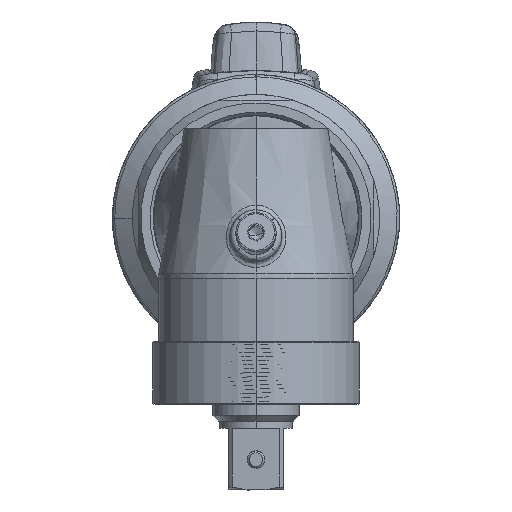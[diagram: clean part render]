
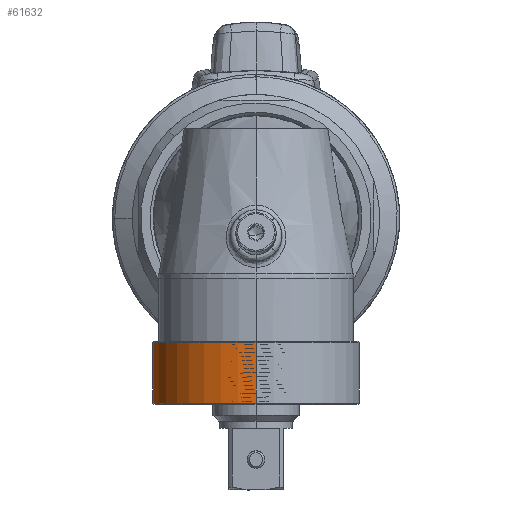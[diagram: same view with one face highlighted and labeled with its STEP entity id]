
A CAD part, left-side view. The second image highlights one B-rep face of the part: STEP entity #61632.
In plain terms, the highlighted cylindrical face has radius 18 mm (diameter 36 mm), a partial arc.
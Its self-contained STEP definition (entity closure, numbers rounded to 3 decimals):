
#6704 = DIRECTION ( 'NONE',  ( 0., 0., -1. ) ) ;
#10603 = VERTEX_POINT ( 'NONE', #93140 ) ;
#16782 = CARTESIAN_POINT ( 'NONE',  ( -112.267, 0., -21.4 ) ) ;
#19701 = ORIENTED_EDGE ( 'NONE', *, *, #78819, .F. ) ;
#21716 = LINE ( 'NONE', #64714, #55303 ) ;
#30053 = AXIS2_PLACEMENT_3D ( 'NONE', #126126, #55959, #136808 ) ;
#32821 = ORIENTED_EDGE ( 'NONE', *, *, #69995, .T. ) ;
#46729 = FACE_OUTER_BOUND ( 'NONE', #63604, .T. ) ;
#47205 = CIRCLE ( 'NONE', #30053, 18. ) ;
#48387 = EDGE_CURVE ( 'NONE', #104668, #10603, #107279, .T. ) ;
#48569 = AXIS2_PLACEMENT_3D ( 'NONE', #16782, #143452, #121343 ) ;
#51653 = CARTESIAN_POINT ( 'NONE',  ( -94.267, 0., -21.6 ) ) ;
#55303 = VECTOR ( 'NONE', #6704, 1000. ) ;
#55959 = DIRECTION ( 'NONE',  ( 0., 0., -1. ) ) ;
#56230 = ORIENTED_EDGE ( 'NONE', *, *, #48387, .T. ) ;
#61632 = ADVANCED_FACE ( 'NONE', ( #46729 ), #85511, .T. ) ;
#63604 = EDGE_LOOP ( 'NONE', ( #32821, #105950, #56230, #19701 ) ) ;
#63635 = EDGE_CURVE ( 'NONE', #117185, #104668, #82947, .T. ) ;
#64714 = CARTESIAN_POINT ( 'NONE',  ( -130.267, 0., -21.4 ) ) ;
#65888 = AXIS2_PLACEMENT_3D ( 'NONE', #98262, #68479, #79169 ) ;
#68479 = DIRECTION ( 'NONE',  ( 0., 0., 1. ) ) ;
#69995 = EDGE_CURVE ( 'NONE', #114799, #117185, #47205, .T. ) ;
#70665 = VECTOR ( 'NONE', #118755, 1000. ) ;
#72232 = CARTESIAN_POINT ( 'NONE',  ( -94.267, 0., -21.4 ) ) ;
#75878 = CARTESIAN_POINT ( 'NONE',  ( -130.267, 0., -21.6 ) ) ;
#78819 = EDGE_CURVE ( 'NONE', #114799, #10603, #21716, .T. ) ;
#79169 = DIRECTION ( 'NONE',  ( 1., 0., 0. ) ) ;
#82947 = LINE ( 'NONE', #72232, #70665 ) ;
#85511 = CYLINDRICAL_SURFACE ( 'NONE', #48569, 18. ) ;
#93140 = CARTESIAN_POINT ( 'NONE',  ( -130.267, 0., -32.2 ) ) ;
#98262 = CARTESIAN_POINT ( 'NONE',  ( -112.267, 0., -32.2 ) ) ;
#104668 = VERTEX_POINT ( 'NONE', #145394 ) ;
#105950 = ORIENTED_EDGE ( 'NONE', *, *, #63635, .T. ) ;
#107279 = CIRCLE ( 'NONE', #65888, 18. ) ;
#114799 = VERTEX_POINT ( 'NONE', #75878 ) ;
#117185 = VERTEX_POINT ( 'NONE', #51653 ) ;
#118755 = DIRECTION ( 'NONE',  ( 0., 0., -1. ) ) ;
#121343 = DIRECTION ( 'NONE',  ( -1., 0., 0. ) ) ;
#126126 = CARTESIAN_POINT ( 'NONE',  ( -112.267, 0., -21.6 ) ) ;
#136808 = DIRECTION ( 'NONE',  ( 1., 0., 0. ) ) ;
#143452 = DIRECTION ( 'NONE',  ( 0., 0., -1. ) ) ;
#145394 = CARTESIAN_POINT ( 'NONE',  ( -94.267, 0., -32.2 ) ) ;
